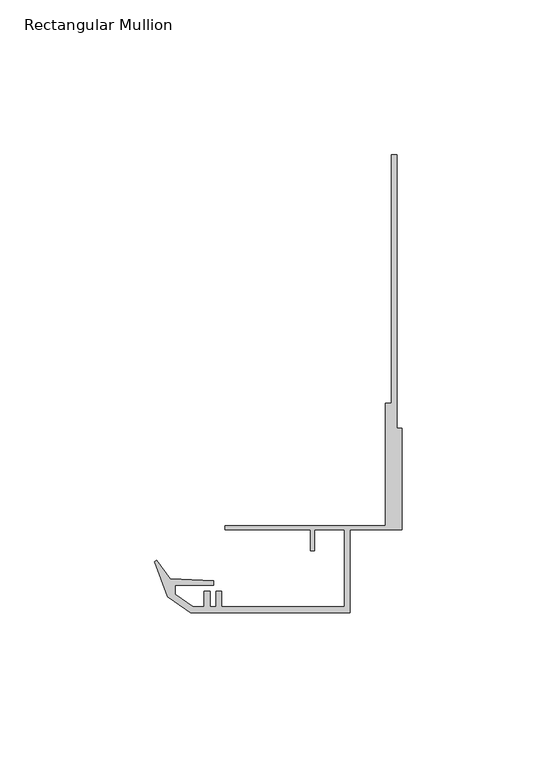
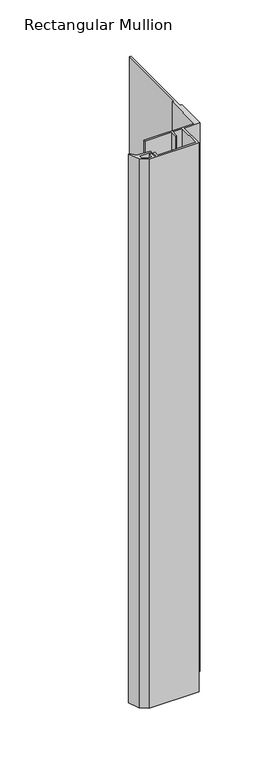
"""IFC4 building model written with IfcOpenShell, lengths in millimetres: member geometry, Rectangular Mullion : Danpal_VRS_Bottom-Mullion."""

from ifc_helpers import new_model, si_unit, frame, origin, place, context, project, spatial, polyline, outline, extrude, source, transform, mapped, element, save


def rectangular_mullion_d827e7fb(model_context):
    return source(origin(), model_context, "Body", "SweptSolid", [
        extrude(outline(polyline([(-79.2216912, 6.0092055), (-74.8674586, 0.1149337), (-60.8734984, -0.5155366), (-60.8734145, -1.9985848), (-73.2989907, -1.9992875), (-73.2988278, -4.8793924), (-67.5141123, -8.8675052), (-63.9180616, -8.8673018), (-63.9180616, -4.0153253), (-62.0481149, -4.0153253), (-62.0481149, -8.8671961), (-60.1494911, -8.8671961), (-60.1494911, -4.0153253), (-58.2791429, -4.0153253), (-58.2791429, -8.8669829), (-18.5986033, -8.8647387), (-18.6, 15.8302587), (-28.3, 15.8297101), (-28.2996176, 9.0698346), (-29.5996176, 9.069761), (-29.6, 15.8296366), (-57.2163694, 15.8280747), (-57.2163694, 17.230123), (-5.3000793, 17.2330591), (-5.3023089, 56.6572668), (-3.4023089, 56.6573743), (-3.4068448, 136.858186), (-1.6880948, 136.8582832), (-1.6831072, 48.6691587), (-0.0018572, 48.6692538), (0.0, 15.8313106), (-16.7999993, 15.8303605), (-16.7984887, -10.8734616), (-68.3166726, -10.8161429), (-75.6571036, -5.6694173), (-79.8611478, 5.5368244), (-79.2216912, 6.0092055)])), frame((0.0, 0.0, -601.0), z_axis=(0.0, 0.0, 1.0), x_axis=(1.0, 0.0, 0.0)), (0.0, 0.0, 1.0), 601.0),
    ])


if __name__ == "__main__":
    model = new_model("IFC4")
    model_context = context("Model", 3, world=origin())
    ifc_project = project(units=[si_unit("LENGTHUNIT", "METRE", prefix="MILLI")], contexts=[model_context])
    site = spatial("IfcSite", under=ifc_project)
    building = spatial("IfcBuilding", under=site)
    placement = place(None, origin())
    rectangular_mullion_shape = rectangular_mullion_d827e7fb(model_context)
    element("IfcMember", 1, ObjectType="Rectangular Mullion : Danpal_VRS_Bottom-Mullion", at=placement, inside=building, context=model_context, shape_type="MappedRepresentation", body=[
        mapped(rectangular_mullion_shape, transform((0.0, 0.0, 0.0), x_axis=(1.0, 0.0, 0.0), y_axis=(0.0, 1.0, 0.0), z_axis=(0.0, 0.0, 1.0))),
    ])
    save(model, "model.ifc")
